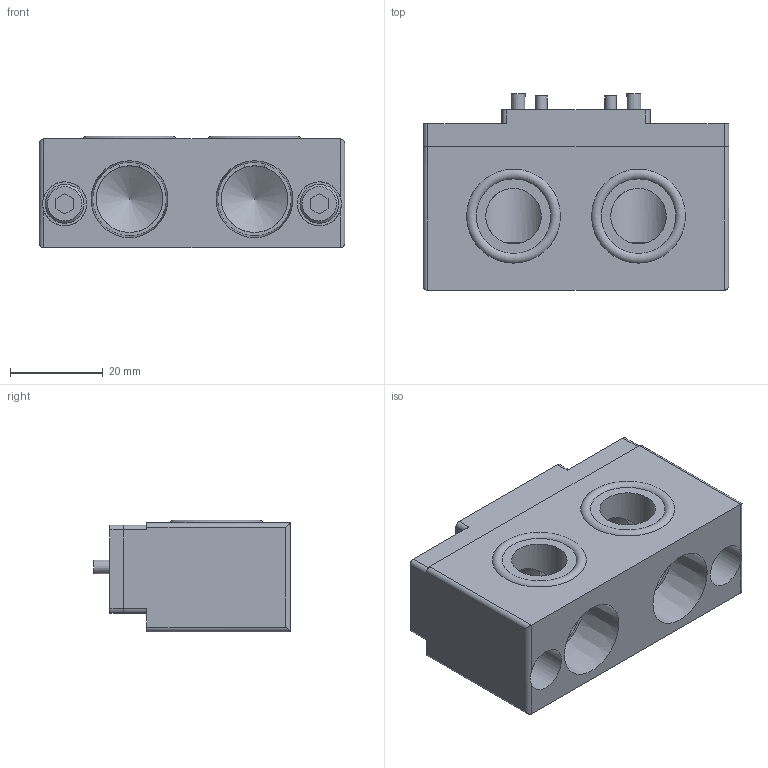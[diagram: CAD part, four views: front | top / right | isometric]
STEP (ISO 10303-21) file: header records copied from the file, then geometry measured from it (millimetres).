
FILE_DESCRIPTION(('STEP AP214'),'1');
FILE_NAME('KHB-7HS-EP102_ver1.stp','2026-04-27T03:54:35',(' '),(' '),'Spatial InterOp 3D',' ',' ');
FILE_SCHEMA(('AUTOMOTIVE_DESIGN { 1 0 10303 214 1 1 1 1 }'));
Length unit declared in the file: millimetre
Products named in the file (1): KHB-7HS-EP102_ver1
Bounding box: 66 x 42.5 x 24.1 mm (x, y, z)
Volume: 43228.1 mm3; surface area: 15254.3 mm2
Topology: 1 solids, 9 shells, 134 faces, 294 edges, 194 vertices
Faces by surface type: plane 80, cylinder 40, cone 12, torus 2
Full cylindrical faces by diameter (mm): 2.5 x4, 3.5 x2, 4 x2, 4.2 x2, 5.41 x2, 5.5 x2, 6.5 x2, 8.385 x2, 9.5 x2, 12 x2, 14.4 x2
Entity records: 4582 total; most frequent: CARTESIAN_POINT 709, DIRECTION 598, ORIENTED_EDGE 478, EDGE_CURVE 239, AXIS2_PLACEMENT_3D 230, EDGE_LOOP 196, VERTEX_POINT 179, FACE_OUTER_BOUND 160
